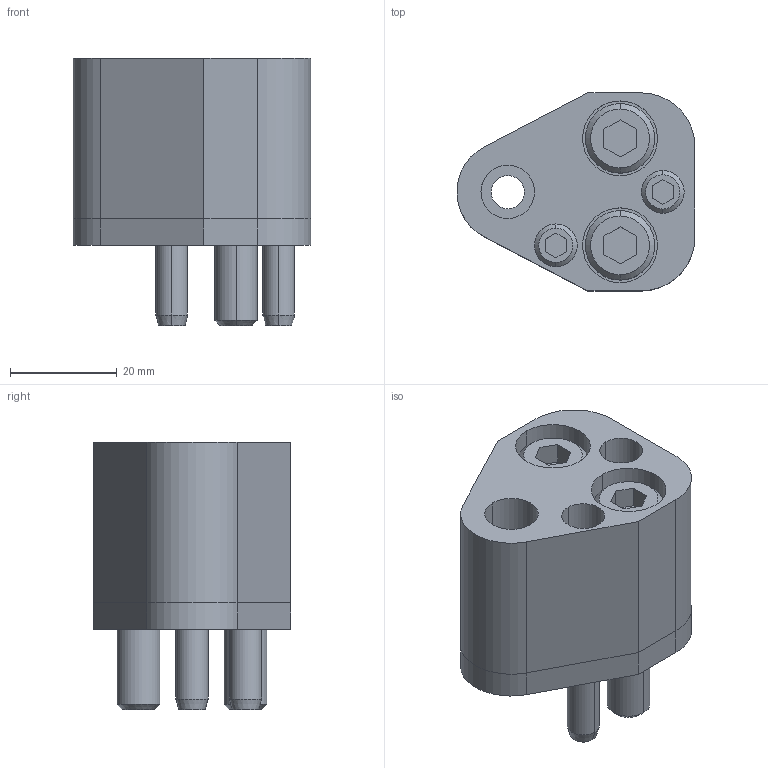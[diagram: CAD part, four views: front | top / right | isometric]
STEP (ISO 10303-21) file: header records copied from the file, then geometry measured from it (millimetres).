
FILE_DESCRIPTION(/* description */ (''),/* implementation_level */ '2;1');
FILE_NAME(/* name */ '3d_ap-ap10_02876_r00.stp',/* time_stamp */ '2011-01-10T14:17:47+09:00',/* author */ ('MISUMI'),/* organization */ (''),/* preprocessor_version */ 'ST-DEVELOPER v11',/* originating_system */ 'UGS - NX 5.0',/* authorisation */ '');
FILE_SCHEMA (('CONFIG_CONTROL_DESIGN'));
Length unit declared in the file: millimetre
Products named in the file (1): 3d_ap-ap10_02876_r00
Bounding box: 44.47 x 37 x 50 mm (x, y, z)
Volume: 40158.3 mm3; surface area: 19148.9 mm2
Topology: 8 solids, 8 shells, 155 faces, 346 edges, 222 vertices
Faces by surface type: plane 67, cylinder 62, cone 26
Entity records: 4474 total; most frequent: DIRECTION 804, CARTESIAN_POINT 772, ORIENTED_EDGE 692, EDGE_CURVE 346, AXIS2_PLACEMENT_3D 306, VERTEX_POINT 222, LINE 192, VECTOR 192
